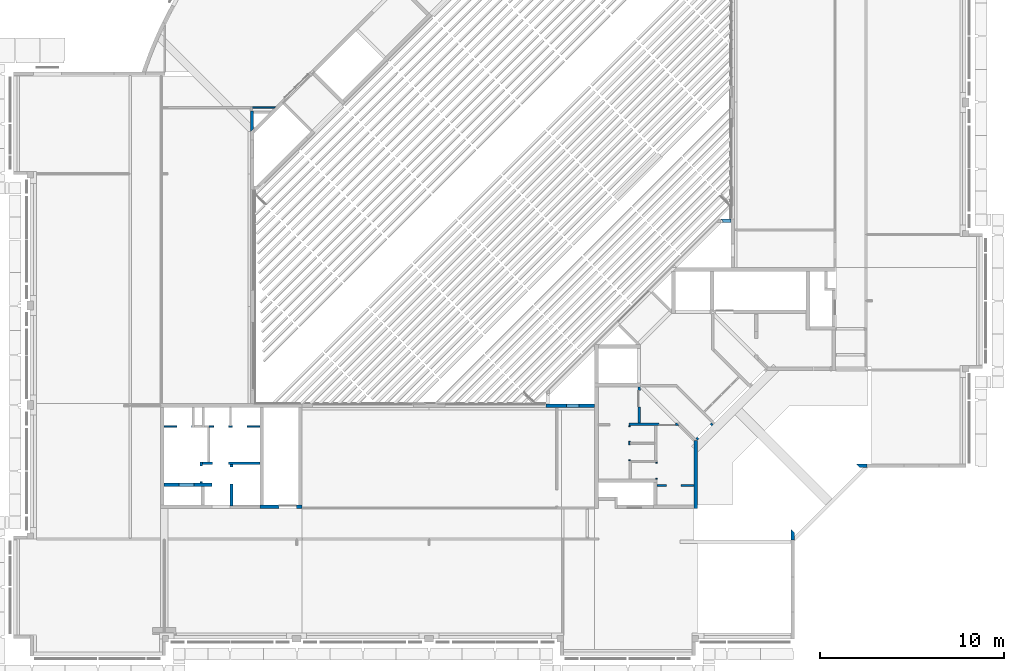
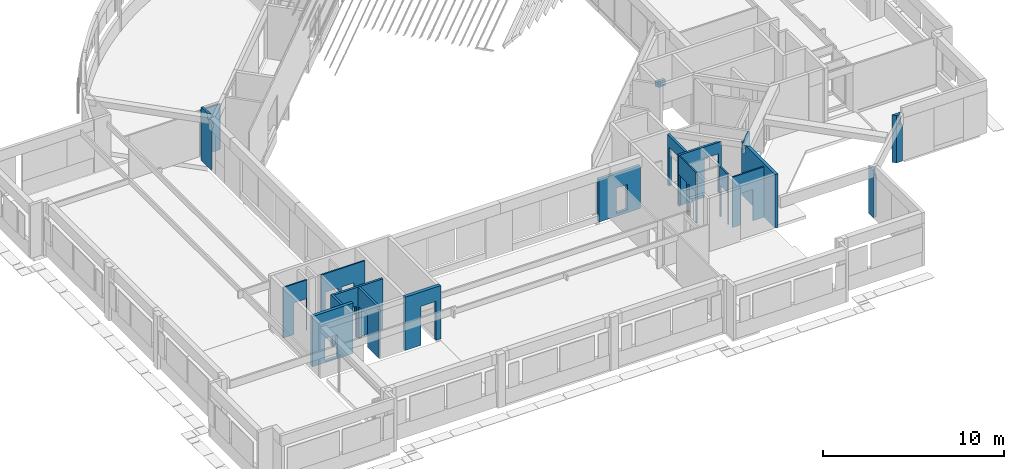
# One storey, part 34 of 37: 19 walls, 1 beam.
"""IFC4X3_ADD2 building model written with IfcOpenShell, lengths in millimetres."""

from ifc_helpers import new_model, si_unit, direction, frame, origin_with_axes, place, context, subcontext, project, spatial, polygons, source, transform, mapped, material, type_object, type_shapes, element, save


model = new_model("IFC4X3_ADD2")

# Units and contexts
model_context = context("Model", 3, precision=1e-05, world=origin_with_axes(), true_north=direction((0.0, 1.0)))
body_context = subcontext(model_context, "Body", "Model", "MODEL_VIEW")
ifc_project = project(units=[si_unit("LENGTHUNIT", "METRE", prefix="MILLI"), si_unit("AREAUNIT", "SQUARE_METRE"), si_unit("VOLUMEUNIT", "CUBIC_METRE"), si_unit("PLANEANGLEUNIT", "RADIAN"), si_unit("TIMEUNIT", "SECOND"), si_unit("MASSUNIT", "GRAM")], contexts=[model_context])

# Site, building, storey
site_placement = place(None, origin_with_axes())
site = spatial("IfcSite", under=ifc_project, at=site_placement, Name="Site", CompositionType="ELEMENT")
building_placement = place(site_placement, origin_with_axes())
building = spatial("IfcBuilding", under=site, at=building_placement, Name="IFC Building Story")
storey_placement = place(building_placement, frame((0.0, 0.0, 3600.0), z_axis=(0.0, 0.0, 1.0), x_axis=(1.0, 0.0, 0.0)))
storey = spatial("IfcBuildingStorey", under=building, at=storey_placement, Name="010", Elevation=3600.0)

# Beam
ifc_material = material(Name="BB_Beton_Bestaand")
beam_type = type_object("IfcBeamType", Name="BB_XX_Betonbalk_ rechthoekig_ center-center_SFB_190 x 400 mm3", PredefinedType="NOTDEFINED")
shared_shape_1 = source(origin_with_axes(), body_context, "Body", "Tessellation", [
    polygons([(8.66293703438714e-12, 190.0, 400.000000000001), (8.66293703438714e-12, 190.0, 0.0), (6.49720277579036e-12, 188.415566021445, 0.0), (8.66293703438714e-12, 188.415566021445, 400.000000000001), (552.100440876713, 190.0, 400.000000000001), (552.100440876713, 0.0, 400.000000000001), (552.100440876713, 0.0, 0.0), (552.100440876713, 190.0, 0.0), (76.5283444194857, 0.0, 0.0), (132.471955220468, 55.9436108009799, 0.0), (76.5283444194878, 0.0, 400.000000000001), (132.471955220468, 55.9436108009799, 400.000000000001)], [[[1, 2, 3, 4]], [[5, 6, 7, 8]], [[2, 1, 5, 8]], [[10, 3, 2]], [[10, 2, 8]], [[10, 8, 7]], [[7, 9, 10]], [[7, 6, 11, 9]], [[12, 11, 6]], [[6, 5, 1]], [[6, 1, 4]], [[6, 4, 12]], [[12, 10, 9, 11]], [[10, 12, 4, 3]]]),
])
type_shapes(beam_type, [shared_shape_1])
beam_placement = place(storey_placement, frame((-13247.100440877, 22565.0, -600.0), z_axis=(0.0, 0.0, 1.0), x_axis=(1.0, 0.0, 0.0)))
element("IfcBeam", 1, at=beam_placement, inside=storey, type_object=beam_type, material=ifc_material, Name="BB_XX_Betonbalk, rechthoekig, center-center_SFB:190 x 400 mm", ObjectType="BB_XX_Betonbalk, rechthoekig, center-center_SFB:190 x 400 mm", PredefinedType="BEAM", context=body_context, shape_type="MappedRepresentation", body=[
    mapped(shared_shape_1, transform((0.0, 0.0, 0.0))),
])

# Walls
wall_type = type_object("IfcWallType", Name="Basic Wall_BB_10.01.62#01_Voorzetwand gipskarton_MS75 _ 50.25_ 75 mm19", PredefinedType="NOTDEFINED")
shared_shape_2 = source(origin_with_axes(), body_context, "Body", "Tessellation", [
    polygons([(49.999999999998, 37.5000000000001, 0.0), (1324.16305604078, 37.5000000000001, 0.0), (1311.66305604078, 24.9999999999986, 0.0), (49.9999999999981, 24.9999999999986, 0.0), (49.9999999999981, 24.9999999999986, 2685.0), (49.9999999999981, 24.9999999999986, 3005.0), (49.999999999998, 37.5000000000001, 3005.0), (49.999999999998, 37.5000000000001, 2685.0), (1324.16305604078, 37.5000000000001, 2685.0), (1324.16305604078, 37.5000000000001, 3005.0), (1324.16305604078, 37.5000000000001, 3075.0), (1311.66305604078, 24.9999999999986, 3075.0), (1311.66305604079, 24.9999999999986, 3005.0), (1311.66305604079, 24.9999999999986, 2685.0), (0.0, 24.9999999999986, 3075.0), (0.0, 24.9999999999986, 3005.0), (0.0, 37.5000000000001, 3005.0), (0.0, 37.5000000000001, 3075.0)], [[[1, 2, 3, 4]], [[5, 6, 7]], [[5, 7, 8]], [[8, 1, 4]], [[8, 4, 5]], [[10, 11, 12]], [[10, 12, 13]], [[13, 14, 9]], [[13, 9, 10]], [[14, 3, 2]], [[14, 2, 9]], [[6, 13, 12]], [[6, 12, 15]], [[15, 16, 6]], [[6, 5, 14]], [[6, 14, 13]], [[5, 4, 3]], [[5, 3, 14]], [[7, 17, 18]], [[10, 9, 8]], [[10, 8, 7]], [[7, 18, 11]], [[7, 11, 10]], [[9, 2, 1]], [[9, 1, 8]], [[17, 7, 6, 16]], [[17, 16, 15, 18]], [[11, 18, 15, 12]]]),
    polygons([(1311.66305604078, 24.9999999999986, 0.0), (49.9999999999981, 24.9999999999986, 0.0), (49.9999999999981, 24.9999999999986, 2685.0), (49.9999999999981, 24.9999999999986, 3005.0), (0.0, 24.9999999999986, 3005.0), (0.0, 24.9999999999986, 3075.0), (1311.66305604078, 24.9999999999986, 3075.0), (1311.66305604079, 24.9999999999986, 3005.0), (1311.66305604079, 24.9999999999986, 2685.0), (1299.16305604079, 12.4999999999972, 0.0), (49.9999999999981, 12.5000000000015, 0.0), (49.9999999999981, 12.5000000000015, 2685.0), (49.9999999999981, 12.5000000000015, 3005.0), (1299.16305604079, 12.4999999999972, 3075.0), (1299.16305604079, 12.5000000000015, 3005.0), (1299.16305604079, 12.5000000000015, 2685.0), (0.0, 12.5000000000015, 3075.0), (0.0, 12.5000000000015, 3005.0)], [[[4, 5, 6]], [[8, 9, 3]], [[8, 3, 4]], [[4, 6, 7]], [[4, 7, 8]], [[9, 1, 2]], [[9, 2, 3]], [[2, 1, 10, 11]], [[3, 2, 11]], [[3, 11, 12]], [[12, 13, 4]], [[12, 4, 3]], [[8, 7, 14]], [[8, 14, 15]], [[15, 16, 9]], [[15, 9, 8]], [[16, 10, 1]], [[16, 1, 9]], [[13, 15, 14]], [[13, 14, 17]], [[17, 18, 13]], [[13, 12, 16]], [[13, 16, 15]], [[12, 11, 10]], [[12, 10, 16]], [[5, 4, 13, 18]], [[5, 18, 17, 6]], [[7, 6, 17, 14]]]),
    polygons([(1299.16305604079, 12.4999999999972, 0.0), (49.9999999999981, 12.5000000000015, 0.0), (49.9999999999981, 12.5000000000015, 2685.0), (49.9999999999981, 12.5000000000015, 3005.0), (0.0, 12.5000000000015, 3005.0), (0.0, 12.5000000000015, 3075.0), (1299.16305604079, 12.4999999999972, 3075.0), (1299.16305604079, 12.5000000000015, 3005.0), (1299.16305604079, 12.5000000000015, 2685.0), (1249.16305604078, -37.5000000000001, 0.0), (49.9999999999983, -37.5000000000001, 0.0), (49.9999999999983, -37.5000000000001, 2685.0), (49.9999999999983, -37.5000000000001, 3005.0), (1249.16305604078, -37.5000000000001, 3075.0), (1249.16305604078, -37.5000000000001, 3005.0), (1249.16305604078, -37.5000000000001, 2685.0), (0.0, -37.5000000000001, 3075.0), (0.0, -37.5000000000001, 3005.0)], [[[4, 5, 6]], [[8, 9, 3]], [[8, 3, 4]], [[4, 6, 7]], [[4, 7, 8]], [[9, 1, 2]], [[9, 2, 3]], [[2, 1, 10, 11]], [[3, 2, 11]], [[3, 11, 12]], [[12, 13, 4]], [[12, 4, 3]], [[8, 7, 14]], [[8, 14, 15]], [[15, 16, 9]], [[15, 9, 8]], [[16, 10, 1]], [[16, 1, 9]], [[13, 15, 14]], [[13, 14, 17]], [[17, 18, 13]], [[13, 12, 16]], [[13, 16, 15]], [[12, 11, 10]], [[12, 10, 16]], [[5, 4, 13, 18]], [[5, 18, 17, 6]], [[7, 6, 17, 14]]]),
])
type_shapes(wall_type, [shared_shape_2])
wall_1_placement = place(storey_placement, frame((-38770.0, 28812.5000000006, -5.0), z_axis=(0.0, 0.0, 1.0), x_axis=(1.0, 0.0, 0.0)))
element("IfcWall", 2, at=wall_1_placement, inside=storey, type_object=wall_type, Name="Basic Wall:BB_10.01.62#01_Voorzetwand gipskarton_MS75 / 50.25, 75 mm", ObjectType="Basic Wall:BB_10.01.62#01_Voorzetwand gipskarton_MS75 / 50.25, 75 mm", PredefinedType="PARTITIONING", context=body_context, shape_type="MappedRepresentation", body=[
    mapped(shared_shape_2, transform((0.0, 0.0, 0.0))),
])
wall_2_placement = place(storey_placement, frame((0.0, 0.0, -3600.0), z_axis=(0.0, 0.0, 1.0), x_axis=(1.0, 0.0, 0.0)))
element("IfcWall", 3, at=wall_2_placement, inside=storey, Name="Basic Wall:BB_XX_Wand uit beton, 200 mm", ObjectType="Basic Wall:BB_XX_Wand uit beton, 200 mm", PredefinedType="SOLIDWALL", context=body_context, shape_type="Tessellation", body=[
    polygons([(-36000.0, 7200.0, 7120.0), (-36000.0, 7200.0, 3520.0), (-36200.00000000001, 7200.0, 3520.0), (-36300.0, 7200.000000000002, 3520.0), (-36300.0, 7200.000000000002, 6150.0), (-37260.0, 7200.000000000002, 6150.0), (-37260.0, 7200.000000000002, 3520.0), (-38100.00000000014, 7200.0, 3520.0), (-38300.00000000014, 7200.0, 3520.0), (-38300.00000000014, 7200.0, 7120.0), (-38100.00000000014, 7200.0, 7120.0), (-36200.00000000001, 7200.0, 7120.0), (-36000.0, 7000.000000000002, 3520.0), (-36000.0, 7000.000000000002, 7120.0), (-38300.00000000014, 7000.000000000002, 7120.0), (-38300.00000000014, 7000.000000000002, 3520.0), (-37260.0, 7000.0, 3520.0), (-37260.0, 7000.0, 6150.0), (-36300.0, 7000.000000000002, 6150.0), (-36300.0, 7000.000000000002, 3520.0)], [[[8, 9, 10]], [[8, 10, 11]], [[8, 11, 6]], [[6, 7, 8]], [[11, 12, 5]], [[11, 5, 6]], [[12, 3, 4]], [[12, 4, 5]], [[12, 1, 2]], [[12, 2, 3]], [[19, 20, 13]], [[19, 13, 14]], [[14, 15, 18]], [[14, 18, 19]], [[15, 16, 17]], [[15, 17, 18]], [[10, 9, 16, 15]], [[3, 2, 13]], [[3, 13, 20]], [[20, 4, 3]], [[11, 10, 15]], [[15, 14, 12]], [[15, 12, 11]], [[14, 1, 12]], [[5, 4, 20, 19]], [[6, 5, 19, 18]], [[7, 6, 18, 17]], [[8, 7, 17]], [[8, 17, 16]], [[16, 9, 8]], [[1, 14, 13, 2]]]),
])
wall_3_placement = place(storey_placement, frame((0.0, 0.0, -3600.0), z_axis=(0.0, 0.0, 1.0), x_axis=(1.0, 0.0, 0.0)))
element("IfcWall", 4, at=wall_3_placement, inside=storey, Name="Basic Wall:BB_XX_Wand uit metselwerk, 140 mm", ObjectType="Basic Wall:BB_XX_Wand uit metselwerk, 140 mm", PredefinedType="SOLIDWALL", context=body_context, shape_type="Tessellation", body=[
    polygons([(-38655.0, 27494.0, 6600.0), (-38655.0, 27494.0, 6280.0), (-38655.0, 27495.18723239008, 6280.0), (-38655.0, 27495.18723239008, 6600.0), (-38795.0, 28624.0, 7000.0), (-38795.0, 28624.0, 3400.0), (-38795.0, 27500.83694395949, 3400.0), (-38795.0, 27500.83694395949, 6280.0), (-38795.0, 27494.0, 6280.0), (-38795.0, 27494.0, 6600.0), (-38795.0, 27937.81751435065, 6600.0), (-38795.0, 27937.81751435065, 7000.0), (-38655.0, 28624.0, 3400.0), (-38655.0, 28484.0, 3400.0), (-38655.0, 27640.83694395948, 3400.0), (-38655.0, 28624.0, 7000.0), (-38655.0, 27797.81751435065, 7000.0), (-38655.0, 28484.0, 7000.0), (-38727.82485578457, 27568.01208817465, 6280.0), (-38655.0, 27640.83694395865, 6600.0), (-38727.82485578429, 27568.01208817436, 6600.0), (-38655.0, 27797.81751435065, 6600.0)], [[[1, 2, 3, 4]], [[8, 9, 10]], [[11, 12, 5]], [[11, 5, 8]], [[8, 10, 11]], [[5, 6, 7]], [[5, 7, 8]], [[14, 15, 7]], [[14, 7, 6]], [[6, 13, 14]], [[18, 16, 5]], [[5, 12, 17]], [[5, 17, 18]], [[9, 2, 1, 10]], [[16, 13, 6, 5]], [[2, 9, 8]], [[2, 8, 19]], [[2, 19, 3]], [[19, 8, 7]], [[7, 15, 20]], [[7, 20, 19]], [[20, 21, 19]], [[21, 20, 22]], [[21, 22, 11]], [[11, 10, 21]], [[10, 1, 4]], [[10, 4, 21]], [[11, 22, 17, 12]], [[19, 21, 4, 3]], [[22, 20, 15]], [[15, 14, 18]], [[15, 18, 22]], [[18, 17, 22]], [[14, 13, 16]], [[14, 16, 18]]]),
])
wall_4_placement = place(storey_placement, frame((0.0, 0.0, -3600.0), z_axis=(0.0, 0.0, 1.0), x_axis=(1.0, 0.0, 0.0)))
element("IfcWall", 5, at=wall_4_placement, inside=storey, Name="Basic Wall:BB_XX_Wand uit metselwerk, 140 mm", ObjectType="Basic Wall:BB_XX_Wand uit metselwerk, 140 mm", PredefinedType="SOLIDWALL", context=body_context, shape_type="Tessellation", body=[
    polygons([(-17740.0, 11650.00000000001, 6920.0), (-17740.0, 13615.0, 6920.0), (-17740.0, 13615.0, 3520.0), (-17740.0, 13424.99999999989, 3520.0), (-17740.0, 13424.99999999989, 6150.0), (-17740.0, 12514.99999999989, 6150.0), (-17740.0, 12514.99999999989, 3520.0), (-17740.0, 11650.00000000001, 3520.0), (-17600.0, 13615.0, 6920.0), (-17600.0, 11650.00000000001, 6920.0), (-17600.0, 11650.00000000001, 3520.0), (-17600.0, 12514.99999999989, 3520.0), (-17600.0, 12514.99999999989, 6150.0), (-17600.0, 13424.99999999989, 6150.0), (-17600.0, 13424.99999999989, 3520.0), (-17600.0, 13615.0, 3520.0)], [[[6, 7, 8]], [[6, 8, 1]], [[1, 2, 5]], [[1, 5, 6]], [[2, 3, 4]], [[2, 4, 5]], [[14, 15, 16]], [[14, 16, 9]], [[9, 10, 13]], [[9, 13, 14]], [[10, 11, 12]], [[10, 12, 13]], [[3, 16, 15, 4]], [[2, 1, 10, 9]], [[3, 2, 9, 16]], [[1, 8, 11, 10]], [[13, 6, 5, 14]], [[14, 5, 4, 15]], [[6, 13, 12, 7]], [[11, 8, 7, 12]]]),
])
wall_5_placement = place(storey_placement, frame((0.0, 0.0, -3600.0), z_axis=(0.0, 0.0, 1.0), x_axis=(1.0, 0.0, 0.0)))
element("IfcWall", 6, at=wall_5_placement, inside=storey, Name="Basic Wall:BB_XX_Wand uit metselwerk, 140 mm", ObjectType="Basic Wall:BB_XX_Wand uit metselwerk, 140 mm", PredefinedType="SOLIDWALL", context=body_context, shape_type="Tessellation", body=[
    polygons([(-15492.98989873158, 11510.0, 6920.0), (-16700.00000000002, 11510.0, 6920.0), (-16840.00000000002, 11510.0, 6920.0), (-18240.0, 11510.0, 6920.0), (-18240.0, 11510.0, 3520.0), (-16840.00000000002, 11510.0, 3520.0), (-16700.00000000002, 11510.0, 3520.0), (-16602.00000000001, 11510.0, 3520.0), (-16602.00000000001, 11510.0, 6150.0), (-15692.00000000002, 11510.0, 6150.0), (-15692.00000000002, 11510.0, 3520.0), (-15492.98989873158, 11510.0, 3520.0), (-18240.0, 11650.0, 6920.0), (-17739.99999999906, 11650.0, 6920.0), (-17599.99999999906, 11650.0, 6920.0), (-15632.98989873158, 11650.0, 6920.0), (-15632.98989873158, 11650.0, 6720.0), (-15632.98989873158, 11650.0, 3520.0), (-15692.00000000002, 11650.0, 3520.0), (-15692.00000000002, 11650.0, 6150.0), (-16602.00000000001, 11650.0, 6150.0), (-16602.00000000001, 11650.0, 3520.0), (-17599.99999999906, 11650.0, 3520.0), (-17739.99999999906, 11650.0, 3520.0), (-18240.0, 11650.0, 3520.0)], [[[3, 4, 5]], [[3, 5, 6]], [[6, 7, 2]], [[6, 2, 3]], [[10, 11, 12]], [[10, 12, 1]], [[1, 2, 9]], [[1, 9, 10]], [[2, 7, 8]], [[2, 8, 9]], [[21, 22, 23]], [[21, 23, 15]], [[15, 17, 21]], [[17, 20, 21]], [[17, 18, 19]], [[17, 19, 20]], [[15, 16, 17]], [[23, 24, 14]], [[23, 14, 15]], [[24, 25, 13]], [[24, 13, 14]], [[6, 5, 23]], [[6, 23, 22]], [[22, 7, 6]], [[22, 8, 7]], [[5, 24, 23]], [[5, 25, 24]], [[2, 1, 16]], [[2, 16, 15]], [[15, 3, 2]], [[14, 13, 4]], [[4, 3, 15]], [[4, 15, 14]], [[5, 4, 13, 25]], [[17, 16, 1]], [[1, 12, 18]], [[1, 18, 17]], [[20, 10, 9, 21]], [[21, 9, 8, 22]], [[10, 20, 19, 11]], [[18, 12, 11, 19]]]),
])
wall_6_placement = place(storey_placement, frame((0.0, 0.0, -3600.0), z_axis=(0.0, 0.0, 1.0), x_axis=(1.0, 0.0, 0.0)))
element("IfcWall", 7, at=wall_6_placement, inside=storey, Name="Basic Wall:BB_XX_Wand uit beton, 200 mm", ObjectType="Basic Wall:BB_XX_Wand uit beton, 200 mm", PredefinedType="SOLIDWALL", context=body_context, shape_type="Tessellation", body=[
    polygons([(-14700.0, 10715.0, 3520.0), (-14700.0, 7199.99999999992, 3520.0), (-14700.0, 6999.99999999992, 3520.0), (-14700.0, 6999.99999999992, 7120.0), (-14700.0, 7199.99999999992, 7120.0), (-14700.0, 10249.58863126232, 7120.0), (-14700.0, 10249.58863126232, 6600.0), (-14700.0, 10514.99999999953, 6600.0), (-14700.0, 10514.99999999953, 7120.0), (-14700.0, 10715.0, 7120.0), (-14500.0, 6999.99999999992, 3520.0), (-14500.0, 10715.0, 3520.0), (-14499.99999999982, 10714.99999999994, 6600.0), (-14500.0, 10078.60389693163, 6600.0), (-14500.0, 10078.60389693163, 7120.0), (-14500.0, 6999.99999999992, 7120.0), (-14697.98989873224, 10715.0, 3520.0), (-14514.50763283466, 10064.09626409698, 7120.0), (-14499.99999999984, 10714.99999999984, 7120.0), (-14514.50763283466, 10064.09626409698, 6600.0)], [[[2, 3, 4]], [[2, 4, 5]], [[8, 9, 10]], [[8, 10, 1]], [[1, 7, 8]], [[7, 1, 2]], [[7, 2, 5]], [[5, 6, 7]], [[14, 15, 16]], [[14, 16, 11]], [[14, 11, 12]], [[12, 13, 14]], [[17, 12, 11]], [[17, 11, 2]], [[2, 1, 17]], [[11, 3, 2]], [[5, 4, 16]], [[16, 18, 6]], [[16, 6, 5]], [[16, 15, 18]], [[17, 1, 10]], [[17, 10, 13]], [[13, 12, 17]], [[10, 19, 13]], [[4, 3, 11, 16]], [[18, 20, 7, 6]], [[20, 18, 15, 14]], [[7, 20, 14]], [[7, 14, 13]], [[7, 13, 8]], [[8, 13, 19, 9]], [[19, 10, 9]]]),
])
wall_7_placement = place(storey_placement, frame((0.0, 0.0, -3600.0), z_axis=(0.0, 0.0, 1.0), x_axis=(1.0, 0.0, 0.0)))
element("IfcWall", 8, at=wall_7_placement, inside=storey, Name="Basic Wall:BB_XX_Wand uit beton, 190 mm", ObjectType="Basic Wall:BB_XX_Wand uit beton, 190 mm", PredefinedType="SOLIDWALL", context=body_context, shape_type="Tessellation", body=[
    polygons([(-22755.0, 12505.004065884, 3400.0), (-20099.99999999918, 12505.004065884, 3400.0), (-20099.99999999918, 12505.004065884, 6280.0), (-22755.0, 12505.004065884, 6280.0), (-20939.99999999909, 12505.004065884, 5300.0), (-20939.99999999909, 12505.004065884, 3600.0), (-21639.99999999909, 12505.004065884, 3600.0), (-21639.99999999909, 12505.004065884, 5300.0), (-22755.0, 12695.004065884, 3400.0), (-22755.0, 12695.004065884, 6280.0), (-20099.99999999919, 12695.004065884, 6280.0), (-20099.99999999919, 12695.004065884, 3400.0), (-20939.99999999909, 12695.004065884, 5300.0), (-21639.99999999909, 12695.004065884, 5300.0), (-21639.99999999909, 12695.004065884, 3600.0), (-20939.99999999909, 12695.004065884, 3600.0)], [[[8, 5, 3]], [[8, 3, 4]], [[4, 1, 7]], [[4, 7, 8]], [[1, 2, 6]], [[1, 6, 7]], [[2, 3, 5]], [[2, 5, 6]], [[16, 13, 11]], [[16, 11, 12]], [[12, 9, 15]], [[12, 15, 16]], [[9, 10, 14]], [[9, 14, 15]], [[10, 11, 13]], [[10, 13, 14]], [[2, 1, 9, 12]], [[3, 2, 12, 11]], [[4, 3, 11, 10]], [[1, 4, 10, 9]], [[6, 5, 13, 16]], [[7, 6, 16, 15]], [[8, 7, 15, 14]], [[5, 8, 14, 13]]]),
])
wall_8_placement = place(storey_placement, frame((0.0, 0.0, -3600.0), z_axis=(0.0, 0.0, 1.0), x_axis=(1.0, 0.0, 0.0)))
element("IfcWall", 9, at=wall_8_placement, inside=storey, Name="Basic Wall:BB_XX_Wand uit metselwerk, 90 mm", ObjectType="Basic Wall:BB_XX_Wand uit metselwerk, 90 mm", PredefinedType="SOLIDWALL", context=body_context, shape_type="Tessellation", body=[
    polygons([(-16790.0, 8600.0, 3520.0), (-16790.0, 8600.0, 6920.0), (-16790.0, 9510.0, 6920.0), (-16790.0, 9510.0, 3520.0), (-16790.0, 9457.999999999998, 3520.0), (-16790.0, 9457.999999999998, 5660.0), (-16790.0, 8651.999999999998, 5660.0), (-16790.0, 8651.999999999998, 3520.0), (-16700.0, 8600.0, 6920.0), (-16700.0, 8600.0, 3520.0), (-16700.0, 8651.999999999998, 3520.0), (-16700.0, 8651.999999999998, 5660.0), (-16700.0, 9457.999999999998, 5660.0), (-16700.0, 9457.999999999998, 3520.0), (-16700.0, 9510.0, 3520.0), (-16700.0, 9510.0, 6920.0)], [[[7, 8, 1]], [[1, 2, 7]], [[2, 3, 6]], [[2, 6, 7]], [[6, 3, 4]], [[4, 5, 6]], [[13, 14, 15]], [[15, 16, 13]], [[16, 9, 12]], [[16, 12, 13]], [[12, 9, 10]], [[10, 11, 12]], [[4, 15, 14, 5]], [[2, 1, 10, 9]], [[3, 2, 9, 16]], [[4, 3, 16, 15]], [[7, 12, 11, 8]], [[13, 6, 5, 14]], [[12, 7, 6, 13]], [[10, 1, 8, 11]]]),
])
wall_9_placement = place(storey_placement, frame((0.0, 0.0, -3600.0), z_axis=(0.0, 0.0, 1.0), x_axis=(1.0, 0.0, 0.0)))
element("IfcWall", 10, at=wall_9_placement, inside=storey, Name="Basic Wall:BB_XX_Wand uit metselwerk, 90 mm", ObjectType="Basic Wall:BB_XX_Wand uit metselwerk, 90 mm", PredefinedType="SOLIDWALL", context=body_context, shape_type="Tessellation", body=[
    polygons([(-18150.0, 11510.0, 3520.0), (-18150.0, 11510.0, 6920.0), (-18150.0, 9599.999999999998, 6920.0), (-18150.0, 9599.999999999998, 3520.0), (-18150.0, 9652.000000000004, 3520.0), (-18150.0, 9652.000000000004, 5660.0), (-18150.0, 10458.0, 5660.0), (-18150.0, 10458.0, 3520.0), (-18150.0, 10652.00000000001, 3520.0), (-18150.0, 10652.00000000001, 5660.0), (-18150.0, 11458.0, 5660.0), (-18150.0, 11458.0, 3520.0), (-18240.0, 11510.0, 6920.0), (-18240.0, 11510.0, 3520.0), (-18240.0, 11458.0, 3520.0), (-18240.0, 11458.0, 5660.0), (-18240.0, 10652.00000000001, 5660.0), (-18240.0, 10652.00000000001, 3520.0), (-18240.0, 10458.0, 3520.0), (-18240.0, 10458.0, 5660.0), (-18240.0, 9652.000000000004, 5660.0), (-18240.0, 9652.000000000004, 3520.0), (-18240.0, 9599.999999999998, 3520.0), (-18240.0, 9599.999999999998, 6920.0)], [[[11, 12, 1]], [[1, 2, 11]], [[2, 10, 11]], [[2, 7, 10]], [[7, 8, 9]], [[7, 9, 10]], [[2, 3, 7]], [[3, 6, 7]], [[6, 3, 4]], [[4, 5, 6]], [[21, 22, 23]], [[23, 24, 21]], [[24, 20, 21]], [[24, 17, 20]], [[17, 18, 19]], [[17, 19, 20]], [[24, 13, 17]], [[13, 16, 17]], [[16, 13, 14]], [[14, 15, 16]], [[4, 23, 22, 5]], [[2, 1, 14, 13]], [[3, 2, 13, 24]], [[4, 3, 24, 23]], [[11, 16, 15, 12]], [[17, 10, 9, 18]], [[16, 11, 10, 17]], [[7, 20, 19, 8]], [[21, 6, 5, 22]], [[20, 7, 6, 21]], [[18, 9, 8, 19]], [[14, 1, 12, 15]]]),
])
wall_10_placement = place(storey_placement, frame((0.0, 0.0, -3600.0), z_axis=(0.0, 0.0, 1.0), x_axis=(1.0, 0.0, 0.0)))
element("IfcWall", 11, at=wall_10_placement, inside=storey, Name="Basic Wall:BB_XX_Wand uit metselwerk, 90 mm", ObjectType="Basic Wall:BB_XX_Wand uit metselwerk, 90 mm", PredefinedType="SOLIDWALL", context=body_context, shape_type="Tessellation", body=[
    polygons([(-14699.99999999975, 8209.999999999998, 3520.0), (-14699.99999999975, 8209.999999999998, 6920.0), (-16700.1157781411, 8210.0, 6920.0), (-16700.1157781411, 8210.0, 3520.0), (-16197.99999999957, 8210.0, 3520.0), (-16197.99999999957, 8210.0, 5660.0), (-15391.99999999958, 8210.0, 5660.0), (-15391.99999999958, 8210.0, 3520.0), (-14699.99999999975, 8300.0, 6920.0), (-14699.99999999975, 8300.0, 3520.0), (-15391.99999999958, 8300.0, 3520.0), (-15391.99999999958, 8300.0, 5660.0), (-16197.99999999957, 8299.999999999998, 5660.0), (-16197.99999999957, 8299.999999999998, 3520.0), (-16700.1157781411, 8300.0, 3520.0), (-16700.1157781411, 8300.0, 6920.0)], [[[7, 8, 1]], [[7, 1, 2]], [[2, 3, 6]], [[2, 6, 7]], [[3, 4, 5]], [[3, 5, 6]], [[13, 14, 15]], [[13, 15, 16]], [[16, 9, 12]], [[16, 12, 13]], [[9, 10, 11]], [[9, 11, 12]], [[4, 15, 14, 5]], [[2, 1, 10, 9]], [[3, 2, 9, 16]], [[4, 3, 16, 15]], [[13, 6, 5, 14]], [[7, 12, 11, 8]], [[6, 13, 12, 7]], [[10, 1, 8, 11]]]),
])
wall_11_placement = place(storey_placement, frame((0.0, 0.0, -3600.0), z_axis=(0.0, 0.0, 1.0), x_axis=(1.0, 0.0, 0.0)))
element("IfcWall", 12, at=wall_11_placement, inside=storey, Name="Basic Wall:BB_XX_Wand uit metselwerk, 140 mm", ObjectType="Basic Wall:BB_XX_Wand uit metselwerk, 140 mm", PredefinedType="SOLIDWALL", context=body_context, shape_type="Tessellation", body=[
    polygons([(-39770.0, 9400.0, 3520.0), (-39770.0, 9400.0, 6920.0), (-39770.0, 7200.000000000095, 6920.0), (-39770.0, 7200.000000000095, 6740.0), (-39770.0, 7140.0, 6740.0), (-39770.0, 7140.0, 3520.0), (-39770.0, 8340.0, 3520.0), (-39770.0, 8340.0, 5660.0), (-39770.0, 9250.0, 5660.0), (-39770.0, 9250.0, 3520.0), (-39910.0, 9400.0, 6920.0), (-39910.0, 9400.0, 3520.0), (-39910.0, 9250.0, 3520.0), (-39910.0, 9250.0, 5660.0), (-39910.0, 8340.0, 5660.0), (-39910.0, 8340.0, 3520.0), (-39910.0, 7140.0, 3520.0), (-39910.0, 7140.0, 6740.0), (-39910.0, 7200.000000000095, 6740.0), (-39910.0, 7200.000000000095, 6920.0)], [[[4, 5, 6]], [[9, 10, 1]], [[9, 1, 2]], [[2, 8, 9]], [[4, 6, 7]], [[4, 7, 8]], [[8, 2, 3]], [[8, 3, 4]], [[15, 16, 17]], [[15, 17, 18]], [[19, 20, 11]], [[19, 11, 15]], [[15, 18, 19]], [[11, 14, 15]], [[11, 12, 13]], [[11, 13, 14]], [[6, 17, 16, 7]], [[2, 1, 12, 11]], [[2, 11, 20, 3]], [[17, 6, 5, 18]], [[19, 4, 3, 20]], [[4, 19, 18, 5]], [[15, 8, 7, 16]], [[9, 14, 13, 10]], [[8, 15, 14, 9]], [[12, 1, 10, 13]]]),
])
wall_12_placement = place(storey_placement, frame((0.0, 0.0, -3600.0), z_axis=(0.0, 0.0, 1.0), x_axis=(1.0, 0.0, 0.0)))
element("IfcWall", 13, at=wall_12_placement, inside=storey, Name="Basic Wall:BB_XX_Wand uit metselwerk, 140 mm", ObjectType="Basic Wall:BB_XX_Wand uit metselwerk, 140 mm", PredefinedType="SOLIDWALL", context=body_context, shape_type="Tessellation", body=[
    polygons([(-41560.0, 8390.0, 3520.0), (-41560.0, 8390.0, 6920.0), (-41560.0, 9539.999999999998, 6920.0), (-41560.0, 9539.999999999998, 3520.0), (-41560.0, 9324.999999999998, 3520.0), (-41560.0, 9324.999999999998, 5660.0), (-41560.0, 8465.0, 5660.0), (-41560.0, 8465.0, 3520.0), (-41420.0, 8390.0, 6920.0), (-41420.0, 8390.0, 3520.0), (-41420.0, 8465.0, 3520.0), (-41420.0, 8465.0, 5660.0), (-41420.0, 9324.999999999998, 5660.0), (-41420.0, 9324.999999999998, 3520.0), (-41420.0, 9400.0, 3520.0), (-41420.0, 9539.999999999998, 3520.0), (-41420.0, 9539.999999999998, 6920.0), (-41420.0, 9400.0, 6920.0)], [[[7, 8, 1]], [[1, 2, 7]], [[2, 3, 6]], [[2, 6, 7]], [[3, 4, 5]], [[3, 5, 6]], [[15, 16, 17]], [[15, 17, 13]], [[13, 14, 15]], [[18, 9, 12]], [[18, 12, 13]], [[13, 17, 18]], [[12, 9, 10]], [[10, 11, 12]], [[15, 14, 5]], [[5, 4, 16]], [[5, 16, 15]], [[2, 1, 10, 9]], [[18, 17, 3]], [[3, 2, 9]], [[3, 9, 18]], [[13, 6, 5, 14]], [[7, 12, 11, 8]], [[6, 13, 12, 7]], [[4, 3, 17, 16]], [[10, 1, 8, 11]]]),
])
wall_13_placement = place(storey_placement, frame((0.0, 0.0, -3600.0), z_axis=(0.0, 0.0, 1.0), x_axis=(1.0, 0.0, 0.0)))
element("IfcWall", 14, at=wall_13_placement, inside=storey, Name="Basic Wall:BB_XX_Wand uit metselwerk, 140 mm", ObjectType="Basic Wall:BB_XX_Wand uit metselwerk, 140 mm", PredefinedType="SOLIDWALL", context=body_context, shape_type="Tessellation", body=[
    polygons([(-38300.00000000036, 9400.0, 3520.0), (-38300.00000000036, 9400.0, 6920.0), (-41420.0, 9400.0, 6920.0), (-41420.0, 9400.0, 3520.0), (-40870.00000000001, 9400.0, 3520.0), (-40870.0, 9400.0, 5660.0), (-40010.0, 9400.0, 5660.0), (-40010.0, 9400.0, 3520.0), (-38300.00000000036, 9540.0, 6920.0), (-38300.00000000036, 9540.0, 3520.0), (-40010.0, 9540.000000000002, 3520.0), (-40010.0, 9540.000000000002, 5660.0), (-40870.0, 9540.0, 5660.0), (-40870.0, 9540.0, 3520.0), (-41420.00000000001, 9540.0, 3520.0), (-41420.00000000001, 9540.0, 6920.0)], [[[7, 8, 1]], [[7, 1, 2]], [[2, 3, 7]], [[3, 6, 7]], [[3, 4, 5]], [[3, 5, 6]], [[13, 14, 15]], [[13, 15, 16]], [[16, 12, 13]], [[12, 16, 9]], [[9, 10, 11]], [[9, 11, 12]], [[4, 15, 14, 5]], [[2, 1, 10, 9]], [[3, 2, 9, 16]], [[7, 12, 11, 8]], [[13, 6, 5, 14]], [[12, 7, 6, 13]], [[4, 3, 16, 15]], [[10, 1, 8, 11]]]),
])
wall_14_placement = place(storey_placement, frame((0.0, 0.0, -3600.0), z_axis=(0.0, 0.0, 1.0), x_axis=(1.0, 0.0, 0.0)))
element("IfcWall", 15, at=wall_14_placement, inside=storey, Name="Basic Wall:BB_XX_Wand uit metselwerk, 190 mm", ObjectType="Basic Wall:BB_XX_Wand uit metselwerk, 190 mm", PredefinedType="SOLIDWALL", context=body_context, shape_type="Tessellation", body=[
    polygons([(-43500.0, 8199.999999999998, 3520.0), (-40900.00000000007, 8199.999999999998, 3520.0), (-40900.00000000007, 8199.999999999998, 6920.0), (-43500.0, 8199.999999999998, 6920.0), (-41889.99999999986, 8200.0, 5145.0), (-41889.99999999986, 8200.0, 3600.000000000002), (-42699.99999999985, 8200.000000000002, 3600.000000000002), (-42699.99999999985, 8200.000000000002, 5145.0), (-40900.00000000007, 8389.999999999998, 3520.0), (-43500.0, 8389.999999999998, 3520.0), (-43500.0, 8389.999999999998, 6920.0), (-40900.00000000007, 8389.999999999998, 6920.0), (-41889.99999999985, 8390.0, 3600.000000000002), (-41889.99999999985, 8390.0, 5145.0), (-42699.99999999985, 8390.000000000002, 5145.0), (-42699.99999999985, 8390.000000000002, 3600.000000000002)], [[[8, 5, 3]], [[8, 3, 4]], [[4, 1, 8]], [[1, 7, 8]], [[1, 6, 7]], [[1, 2, 6]], [[2, 3, 5]], [[2, 5, 6]], [[16, 13, 9]], [[9, 10, 16]], [[10, 15, 16]], [[15, 10, 11]], [[11, 12, 14]], [[11, 14, 15]], [[12, 9, 13]], [[12, 13, 14]], [[2, 1, 10, 9]], [[3, 2, 9, 12]], [[4, 3, 12, 11]], [[1, 4, 11, 10]], [[5, 14, 13, 6]], [[6, 13, 16, 7]], [[7, 16, 15, 8]], [[14, 5, 8, 15]]]),
])
wall_15_placement = place(storey_placement, frame((0.0, 0.0, -3600.0), z_axis=(0.0, 0.0, 1.0), x_axis=(1.0, 0.0, 0.0)))
element("IfcWall", 16, at=wall_15_placement, inside=storey, Name="Basic Wall:BB_XX_Wand uit metselwerk, 90 mm", ObjectType="Basic Wall:BB_XX_Wand uit metselwerk, 90 mm", PredefinedType="SOLIDWALL", context=body_context, shape_type="Tessellation", body=[
    polygons([(-41989.99999999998, 11410.004065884, 6920.0), (-43500.0, 11410.004065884, 6920.0), (-43500.0, 11410.004065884, 3520.0), (-42808.00000000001, 11410.004065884, 3520.0), (-42808.00000000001, 11410.004065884, 5660.0), (-42002.00000000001, 11410.004065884, 5660.0), (-42002.00000000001, 11410.004065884, 3520.0), (-41989.99999999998, 11410.004065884, 3520.0), (-43500.00000000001, 11500.004065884, 6920.0), (-41989.99999999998, 11500.004065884, 6920.0), (-41989.99999999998, 11500.004065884, 3520.0), (-42002.00000000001, 11500.004065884, 3520.0), (-42002.00000000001, 11500.004065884, 5660.0), (-42808.00000000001, 11500.004065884, 5660.0), (-42808.00000000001, 11500.004065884, 3520.0), (-43500.00000000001, 11500.004065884, 3520.0)], [[[6, 7, 8]], [[8, 1, 6]], [[1, 2, 5]], [[1, 5, 6]], [[2, 3, 4]], [[2, 4, 5]], [[14, 15, 16]], [[14, 16, 9]], [[9, 10, 13]], [[9, 13, 14]], [[13, 10, 11]], [[11, 12, 13]], [[3, 16, 15, 4]], [[2, 1, 10, 9]], [[3, 2, 9, 16]], [[1, 8, 11, 10]], [[6, 13, 12, 7]], [[14, 5, 4, 15]], [[13, 6, 5, 14]], [[11, 8, 7, 12]]]),
])
wall_16_placement = place(storey_placement, frame((0.0, 0.0, -3600.0), z_axis=(0.0, 0.0, 1.0), x_axis=(1.0, 0.0, 0.0)))
element("IfcWall", 17, at=wall_16_placement, inside=storey, Name="Basic Wall:BB_03.09.24#03_Wand uit metselwerk, 190 mm", ObjectType="Basic Wall:BB_03.09.24#03_Wand uit metselwerk, 190 mm", PredefinedType="SOLIDWALL", context=body_context, shape_type="Tessellation", body=[
    polygons([(-5664.717356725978, 9224.999999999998, 3400.0), (-5290.000000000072, 9225.000000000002, 3400.0), (-5290.000000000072, 9225.000000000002, 5887.68969275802), (-5493.700576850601, 9225.0, 5897.5785363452), (-5493.700576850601, 9225.0, 6600.0), (-5664.717356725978, 9224.999999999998, 6600.0), (-5290.000000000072, 9415.000000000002, 3400.0), (-5854.717356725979, 9415.0, 3400.0), (-5854.717356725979, 9415.0, 6600.0), (-5305.000000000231, 9415.0, 6600.0), (-5305.000000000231, 9414.999999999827, 6280.0), (-5290.000000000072, 9415.000000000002, 6280.0), (-5290.000000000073, 9387.242792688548, 6280.0), (-5290.000000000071, 9348.570179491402, 5881.69085762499), (-5305.000000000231, 9413.700576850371, 6600.0), (-5330.065198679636, 9388.635378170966, 5881.69085762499), (-5305.000000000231, 9413.700576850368, 6398.00961470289), (-5305.000000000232, 9402.242792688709, 6280.0)], [[[4, 5, 6]], [[4, 6, 1]], [[1, 2, 3]], [[1, 3, 4]], [[11, 12, 7]], [[11, 7, 8]], [[11, 8, 9]], [[9, 10, 11]], [[7, 2, 1, 8]], [[14, 3, 2]], [[14, 2, 7]], [[7, 12, 14]], [[12, 13, 14]], [[9, 6, 5]], [[9, 5, 15]], [[9, 15, 10]], [[1, 6, 9, 8]], [[16, 4, 3, 14]], [[17, 15, 5]], [[5, 4, 16]], [[5, 16, 17]], [[18, 17, 16]], [[16, 14, 13]], [[16, 13, 18]], [[17, 18, 11]], [[17, 11, 10]], [[10, 15, 17]], [[11, 18, 13, 12]]]),
])
wall_17_placement = place(storey_placement, frame((0.0, 0.0, -3600.0), z_axis=(0.0, 0.0, 1.0), x_axis=(1.0, 0.0, 0.0)))
element("IfcWall", 18, at=wall_17_placement, inside=storey, Name="Basic Wall:BB_03.09.24#03_Wand uit metselwerk, 190 mm", ObjectType="Basic Wall:BB_03.09.24#03_Wand uit metselwerk, 190 mm", PredefinedType="SOLIDWALL", context=body_context, shape_type="Tessellation", body=[
    polygons([(-9415.0, 5854.71735672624, 3400.0), (-9415.000000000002, 5290.000000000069, 3400.0), (-9415.000000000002, 5290.000000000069, 6278.97027008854), (-9415.000000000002, 5303.700576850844, 6278.30516219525), (-9415.000000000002, 5303.700576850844, 6600.0), (-9415.0, 5854.71735672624, 6600.0), (-9225.000000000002, 5290.000000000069, 3400.0), (-9225.0, 5664.717356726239, 3400.0), (-9225.0, 5664.717356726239, 6600.0), (-9225.000000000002, 5493.700576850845, 6600.0), (-9225.000000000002, 5493.700576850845, 6259.85769080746), (-9225.000000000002, 5290.000000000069, 6269.74653439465)], [[[4, 5, 6]], [[6, 1, 2]], [[6, 2, 4]], [[2, 3, 4]], [[11, 12, 7]], [[11, 7, 8]], [[8, 9, 11]], [[9, 10, 11]], [[7, 2, 1, 8]], [[2, 7, 12, 3]], [[9, 6, 5, 10]], [[1, 6, 9, 8]], [[12, 11, 4, 3]], [[5, 4, 11, 10]]]),
])
wall_18_placement = place(storey_placement, frame((0.0, 0.0, -3600.0), z_axis=(0.0, 0.0, 1.0), x_axis=(1.0, 0.0, 0.0)))
element("IfcWall", 19, at=wall_18_placement, inside=storey, Name="Basic Wall:BB_XX_Wand uit metselwerk, 90 mm", ObjectType="Basic Wall:BB_XX_Wand uit metselwerk, 90 mm", PredefinedType="SOLIDWALL", context=body_context, shape_type="Tessellation", body=[
    polygons([(-38990.00000000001, 11410.004065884, 5660.0), (-38990.00000000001, 11410.004065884, 3520.000000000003), (-38300.00000000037, 11410.004065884, 3520.0), (-38300.00000000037, 11410.004065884, 6920.0), (-41080.0, 11410.004065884, 6920.0), (-41080.0, 11410.004065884, 3520.0), (-40808.00000000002, 11410.004065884, 3520.000000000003), (-40808.00000000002, 11410.004065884, 5660.0), (-40002.00000000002, 11410.004065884, 5660.0), (-40002.00000000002, 11410.004065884, 3520.0), (-39796.0, 11410.004065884, 3520.0), (-39796.0, 11410.004065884, 5660.0), (-38300.00000000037, 11500.004065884, 3520.0), (-38990.00000000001, 11500.004065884, 3520.000000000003), (-38990.00000000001, 11500.004065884, 5660.0), (-39796.0, 11500.004065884, 5660.0), (-39796.0, 11500.004065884, 3520.0), (-40002.00000000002, 11500.004065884, 3520.0), (-40002.00000000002, 11500.004065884, 5660.0), (-40808.00000000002, 11500.004065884, 5660.0), (-40808.00000000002, 11500.004065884, 3520.000000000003), (-41080.00000000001, 11500.004065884, 3520.0), (-41080.00000000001, 11500.004065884, 6920.0), (-38300.00000000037, 11500.004065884, 6920.0)], [[[1, 2, 3]], [[1, 3, 4]], [[12, 1, 4]], [[4, 9, 12]], [[9, 10, 11]], [[9, 11, 12]], [[4, 5, 9]], [[5, 8, 9]], [[5, 6, 7]], [[5, 7, 8]], [[20, 21, 22]], [[20, 22, 23]], [[23, 19, 20]], [[23, 16, 19]], [[16, 17, 18]], [[16, 18, 19]], [[23, 24, 15]], [[23, 15, 16]], [[24, 13, 14]], [[24, 14, 15]], [[11, 10, 18, 17]], [[4, 3, 13, 24]], [[5, 4, 24, 23]], [[6, 5, 23, 22]], [[9, 8, 20, 19]], [[8, 7, 21, 20]], [[10, 9, 19, 18]], [[16, 15, 1, 12]], [[15, 14, 2, 1]], [[17, 16, 12, 11]], [[3, 2, 14, 13]], [[22, 21, 7, 6]]]),
])
wall_19_placement = place(storey_placement, frame((0.0, 0.0, -3600.0), z_axis=(0.0, 0.0, 1.0), x_axis=(1.0, 0.0, 0.0)))
element("IfcWall", 20, at=wall_19_placement, inside=storey, Name="Basic Wall:BB_03.09.24#02_Wand uit metselwerk_EI60_43dB, 140 mm", ObjectType="Basic Wall:BB_03.09.24#02_Wand uit metselwerk_EI60_43dB, 140 mm", PredefinedType="SOLIDWALL", context=body_context, shape_type="Tessellation", body=[
    polygons([(-14598.31095449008, 10815.28967514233, 3520.0), (-14598.31095449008, 10815.28967514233, 6910.0), (-13753.31835097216, 11660.28227866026, 6910.0), (-13753.31835097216, 11660.28227866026, 3520.0), (-13824.02902909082, 11589.5716005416, 3520.0), (-13824.02902909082, 11589.5716005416, 5760.0), (-14524.0647424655, 10889.53588716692, 5760.0), (-14524.0647424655, 10889.53588716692, 3520.0), (-14499.31600512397, 10716.29472577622, 6910.0), (-14499.31600512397, 10716.29472577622, 3520.0), (-14425.06979309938, 10790.5409378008, 3520.0), (-14425.06979309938, 10790.5409378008, 5760.0), (-13725.0340797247, 11490.57665117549, 5760.0), (-13725.0340797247, 11490.57665117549, 3520.0), (-13654.32340160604, 11561.28732929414, 3520.0), (-13654.32340160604, 11561.28732929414, 6910.0)], [[[7, 8, 1]], [[1, 2, 7]], [[2, 3, 6]], [[2, 6, 7]], [[6, 3, 4]], [[4, 5, 6]], [[13, 14, 15]], [[15, 16, 13]], [[16, 9, 12]], [[16, 12, 13]], [[12, 9, 10]], [[10, 11, 12]], [[6, 13, 12, 7]], [[7, 12, 11, 8]], [[13, 6, 5, 14]], [[4, 15, 14, 5]], [[2, 1, 10, 9]], [[3, 2, 9, 16]], [[4, 3, 16, 15]], [[10, 1, 8, 11]]]),
])

save(model, "model.ifc")
